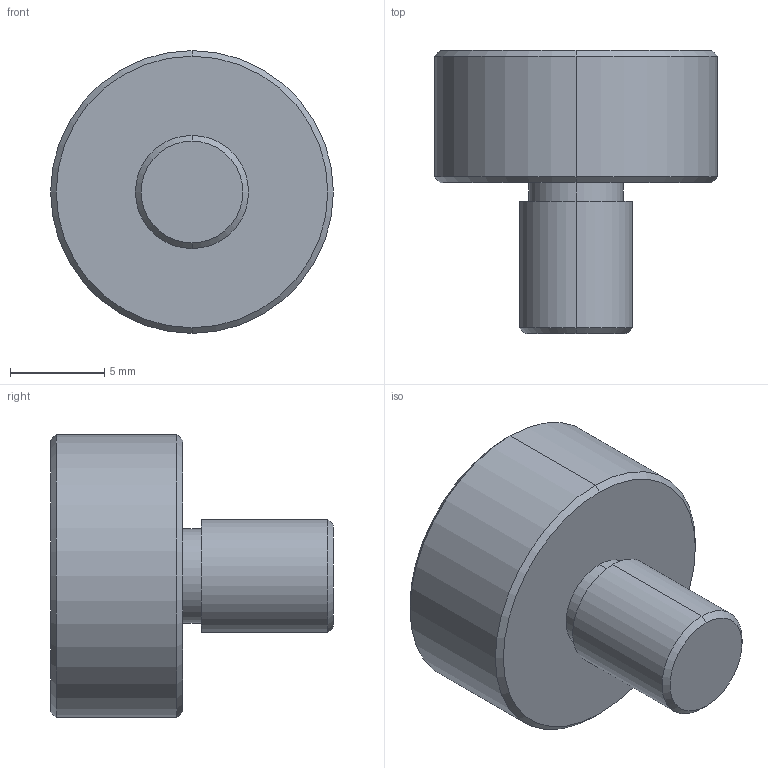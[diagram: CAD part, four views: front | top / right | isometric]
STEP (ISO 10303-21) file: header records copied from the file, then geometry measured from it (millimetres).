
FILE_DESCRIPTION (( 'STEP AP214' ), '1' );
FILE_NAME ('唅聽.STEP', '2026-08-06T06:14:17', ( '' ), ( '' ), 'SwSTEP 2.0', 'SolidWorks 2024', '' );
FILE_SCHEMA (( 'AUTOMOTIVE_DESIGN' ));
Length unit declared in the file: millimetre
Products named in the file (1): 旋钮
Bounding box: 15 x 15 x 15 mm (x, y, z)
Volume: 1407.8 mm3; surface area: 880.7 mm2
Topology: 1 solids, 1 shells, 30 faces, 57 edges, 32 vertices
Faces by surface type: cone 13, plane 11, cylinder 6
Entity records: 798 total; most frequent: CARTESIAN_POINT 167, DIRECTION 137, ORIENTED_EDGE 114, EDGE_CURVE 57, AXIS2_PLACEMENT_3D 56, EDGE_LOOP 33, VERTEX_POINT 32, ADVANCED_FACE 30
